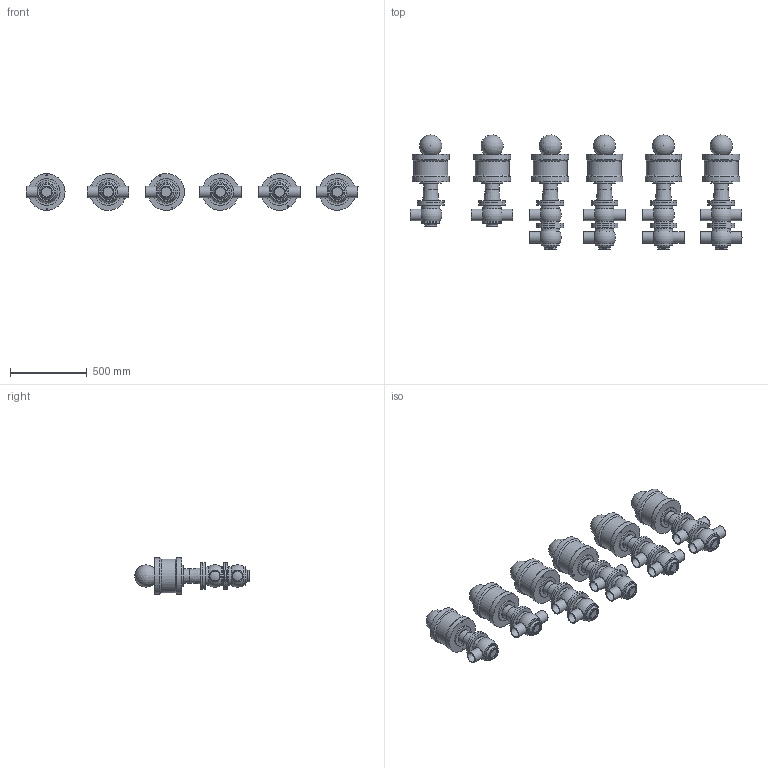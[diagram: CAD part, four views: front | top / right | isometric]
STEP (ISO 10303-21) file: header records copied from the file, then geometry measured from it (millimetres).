
FILE_DESCRIPTION(/* description */ (''),/* implementation_level */ '2;1');
FILE_NAME(/* name */ 'C:\Users\marz-m\Desktop\PDF\BBZQ-DN76.1-CIL.207.stp',/* time_stamp */ '2018-04-13T15:21:57+02:00',/* author */ ('marz-m'),/* organization */ (''),/* preprocessor_version */ 'ST-DEVELOPER v17',/* originating_system */ 'Autodesk Inventor 2018',/* authorisation */ '');
FILE_SCHEMA (('AUTOMOTIVE_DESIGN { 1 0 10303 214 3 1 1 }'));
Length unit declared in the file: millimetre
Products named in the file (8): BBZQ-DN76.1-CIL.207; assemblaggio dn80 per cil 207-360; CIL207-BBZQ; SAGOMA-GIOTTO-; COR-INF-L-BBZQ-DN76.1; COR-SUP-L-BBZQ-DN76.1; COR-SUP-T-BBZQ-DN76.1; COR-INF-T-BBZQ-DN76.1
Assembly tree (28 placements, depth 2):
  BBZQ-DN76.1-CIL.207
    assemblaggio dn80 per cil 207-360  x6
    COR-INF-L-BBZQ-DN76.1  x3
    COR-INF-T-BBZQ-DN76.1  x3
    COR-SUP-L-BBZQ-DN76.1  x2
    COR-SUP-T-BBZQ-DN76.1  x2
    CIL207-BBZQ  x6
    SAGOMA-GIOTTO-  x6
Bounding box: 2167.6 x 744.47 x 240 mm (x, y, z)
Volume: 84244007 mm3; surface area: 4104202.7 mm2
Topology: 28 solids, 28 shells, 326 faces, 778 edges, 578 vertices
Faces by surface type: cylinder 124, plane 115, torus 32, sphere 31, cone 24
Full cylindrical faces by diameter (mm): 5.657 x6, 8.944 x6, 66.1 x21, 76.1 x21, 92 x6, 120 x20, 141 x6, 174 x20, 221 x6, 240 x12
Entity records: 3504 total; most frequent: DIRECTION 689, CARTESIAN_POINT 541, ORIENTED_EDGE 466, AXIS2_PLACEMENT_3D 323, EDGE_CURVE 233, CIRCLE 190, VERTEX_POINT 175, EDGE_LOOP 122
